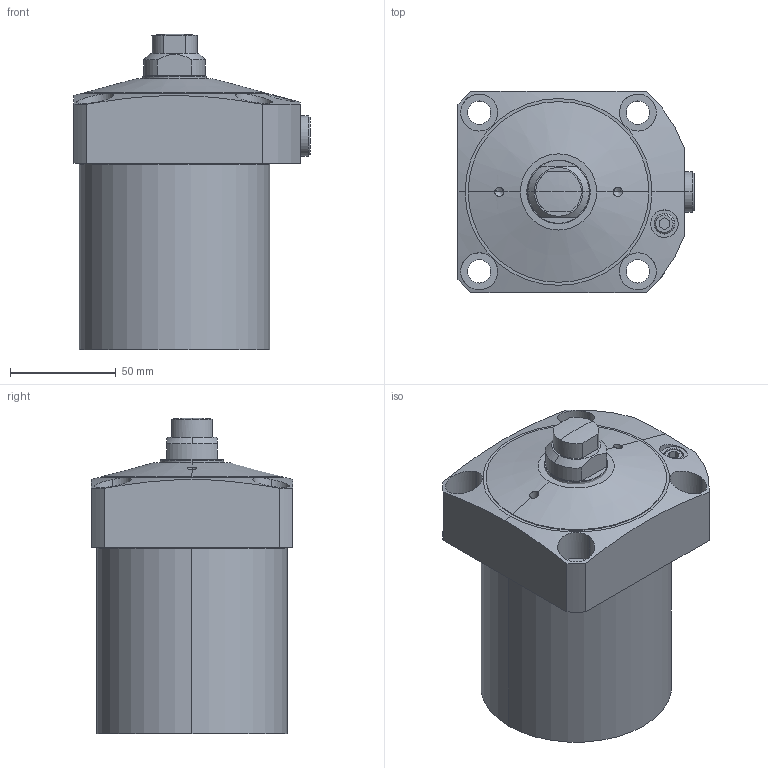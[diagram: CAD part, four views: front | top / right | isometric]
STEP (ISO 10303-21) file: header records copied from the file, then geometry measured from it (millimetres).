
FILE_DESCRIPTION(/* description */ (''),/* implementation_level */ '2;1');
FILE_NAME(/* name */ 'KFSC90.stp',/* time_stamp */ '2022-11-16T16:44:18+08:00',/* author */ (''),/* organization */ (''),/* preprocessor_version */ 'ST-DEVELOPER v16.7',/* originating_system */ 'SIEMENS PLM Software NX 12.0',/* authorisation */ '');
FILE_SCHEMA (('AP203_CONFIGURATION_CONTROLLED_3D_DESIGN_OF_MECHANICAL_PARTS_AND_ASSEMBLIES_MIM_LF { 1 0 10303 403 2 1 2}'));
Length unit declared in the file: millimetre
Products named in the file (5): KFSC90-04; KFSC90-01; KFSC90-02; KFSC90-03; LC0902-Cx_step
Assembly tree (4 placements, depth 2):
  LC0902-Cx_step
    KFSC90-03
    KFSC90-02
    KFSC90-01
    KFSC90-04
Bounding box: 111.5 x 95 x 149 mm (x, y, z)
Volume: 899810.6 mm3; surface area: 67422 mm2
Topology: 4 solids, 4 shells, 117 faces, 266 edges, 167 vertices
Faces by surface type: cylinder 50, plane 43, cone 20, bspline 2, torus 2
Entity records: 4066 total; most frequent: CARTESIAN_POINT 839, DIRECTION 588, ORIENTED_EDGE 520, EDGE_CURVE 260, AXIS2_PLACEMENT_3D 232, VERTEX_POINT 167, EDGE_LOOP 141, LINE 124
